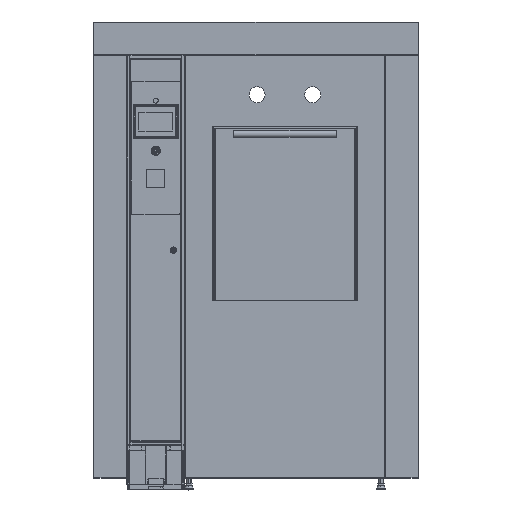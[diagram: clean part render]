
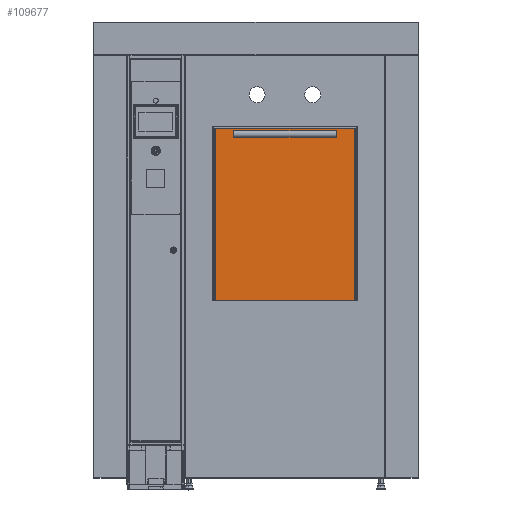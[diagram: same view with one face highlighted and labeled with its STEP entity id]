
A CAD part, top view. The second image highlights one B-rep face of the part: STEP entity #109677.
In plain terms, the highlighted planar face has unit normal (0, 0, 1).
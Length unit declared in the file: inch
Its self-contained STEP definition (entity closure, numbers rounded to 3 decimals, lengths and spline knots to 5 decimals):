
#1794 = VERTEX_POINT ( 'NONE', #187214 ) ;
#2211 = ORIENTED_EDGE ( 'NONE', *, *, #150237, .T. ) ;
#2369 = DIRECTION ( 'NONE',  ( 1., 0., 0. ) ) ;
#18050 = CARTESIAN_POINT ( 'NONE',  ( -12.5085, -16.421, 0.048 ) ) ;
#37209 = VECTOR ( 'NONE', #83970, 39.37008 ) ;
#37273 = LINE ( 'NONE', #86133, #196809 ) ;
#38689 = FACE_OUTER_BOUND ( 'NONE', #38960, .T. ) ;
#38960 = EDGE_LOOP ( 'NONE', ( #165132, #2211, #142925, #111480 ) ) ;
#45616 = VERTEX_POINT ( 'NONE', #18050 ) ;
#46276 = VERTEX_POINT ( 'NONE', #136139 ) ;
#55591 = VECTOR ( 'NONE', #143299, 39.37008 ) ;
#79886 = CARTESIAN_POINT ( 'NONE',  ( -12.5085, 16.42416, 0.048 ) ) ;
#81427 = CARTESIAN_POINT ( 'NONE',  ( -12.51166, -16.421, 0.048 ) ) ;
#82959 = LINE ( 'NONE', #162960, #37209 ) ;
#83970 = DIRECTION ( 'NONE',  ( 0., 1., 0. ) ) ;
#84092 = DIRECTION ( 'NONE',  ( -1., 0., 0. ) ) ;
#86133 = CARTESIAN_POINT ( 'NONE',  ( 12.51166, 16.421, 0.048 ) ) ;
#90278 = AXIS2_PLACEMENT_3D ( 'NONE', #103122, #102108, #165514 ) ;
#102108 = DIRECTION ( 'NONE',  ( 0., 0., -1. ) ) ;
#102870 = EDGE_CURVE ( 'NONE', #46276, #45616, #158893, .T. ) ;
#103122 = CARTESIAN_POINT ( 'NONE',  ( 12.5875, 16.5, 0.048 ) ) ;
#109677 = ADVANCED_FACE ( 'NONE', ( #38689 ), #181120, .F. ) ;
#111480 = ORIENTED_EDGE ( 'NONE', *, *, #102870, .T. ) ;
#113672 = EDGE_CURVE ( 'NONE', #45616, #1794, #144836, .T. ) ;
#115066 = VERTEX_POINT ( 'NONE', #132921 ) ;
#132921 = CARTESIAN_POINT ( 'NONE',  ( 12.5085, 16.421, 0.048 ) ) ;
#136139 = CARTESIAN_POINT ( 'NONE',  ( -12.5085, 16.421, 0.048 ) ) ;
#142925 = ORIENTED_EDGE ( 'NONE', *, *, #191856, .T. ) ;
#143299 = DIRECTION ( 'NONE',  ( 0., -1., 0. ) ) ;
#144836 = LINE ( 'NONE', #81427, #147636 ) ;
#147636 = VECTOR ( 'NONE', #2369, 39.37008 ) ;
#150237 = EDGE_CURVE ( 'NONE', #1794, #115066, #82959, .T. ) ;
#158893 = LINE ( 'NONE', #79886, #55591 ) ;
#162960 = CARTESIAN_POINT ( 'NONE',  ( 12.5085, -16.42416, 0.048 ) ) ;
#165132 = ORIENTED_EDGE ( 'NONE', *, *, #113672, .T. ) ;
#165514 = DIRECTION ( 'NONE',  ( -1., 0., 0. ) ) ;
#181120 = PLANE ( 'NONE',  #90278 ) ;
#187214 = CARTESIAN_POINT ( 'NONE',  ( 12.5085, -16.421, 0.048 ) ) ;
#191856 = EDGE_CURVE ( 'NONE', #115066, #46276, #37273, .T. ) ;
#196809 = VECTOR ( 'NONE', #84092, 39.37008 ) ;
